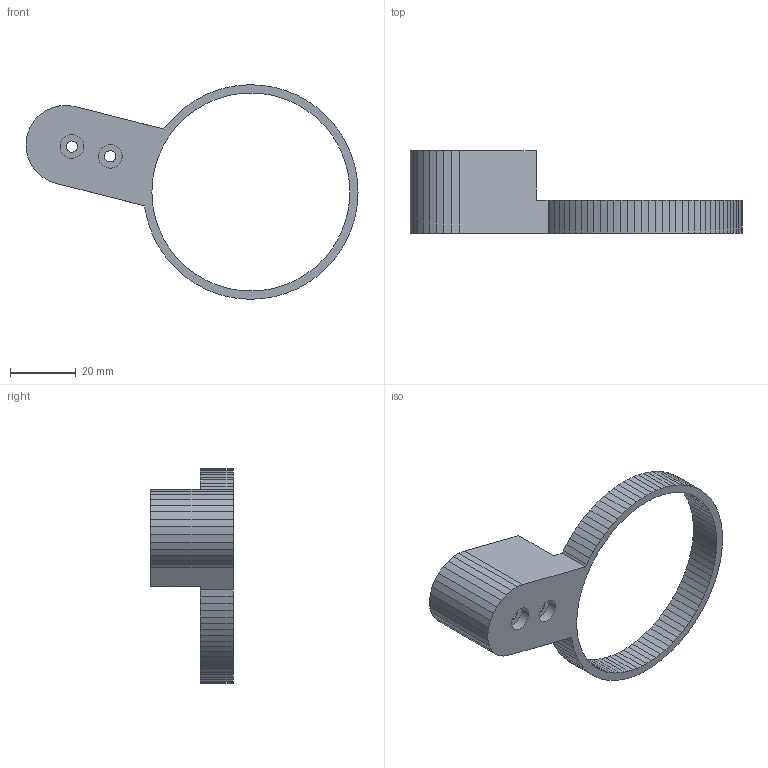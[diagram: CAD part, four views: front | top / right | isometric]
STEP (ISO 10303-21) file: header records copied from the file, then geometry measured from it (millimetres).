
FILE_DESCRIPTION(('Open CASCADE Model'),'2;1');
FILE_NAME('Open CASCADE Shape Model','2026-10-15T21:05:20',('Author'),( 'Open CASCADE'),'Open CASCADE STEP processor 7.9','Open CASCADE 7.9' ,'Unknown');
FILE_SCHEMA(('AUTOMOTIVE_DESIGN { 1 0 10303 214 1 1 1 1 }'));
Length unit declared in the file: millimetre
Products named in the file (1): Open CASCADE STEP translator 7.9 3
Bounding box: 100.7 x 25 x 65 mm (x, y, z)
Volume: 24352.8 mm3; surface area: 9527.4 mm2
Topology: 1 solids, 1 shells, 220 faces, 648 edges, 432 vertices
Faces by surface type: plane 216, cylinder 4
Full cylindrical faces by diameter (mm): 3.4 x2, 7.2 x2
Entity records: 15238 total; most frequent: CARTESIAN_POINT 3039, DIRECTION 1982, LINE 1522, VECTOR 1522, ORIENTED_EDGE 1296, PCURVE 1296, DEFINITIONAL_REPRESENTATION 1296, EDGE_CURVE 648
